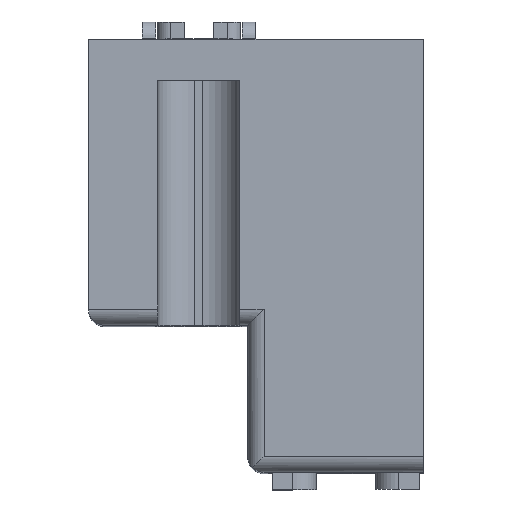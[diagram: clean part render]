
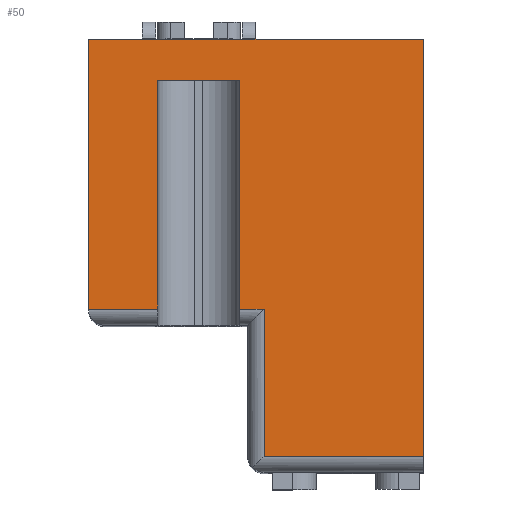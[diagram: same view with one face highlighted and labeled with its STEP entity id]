
A CAD part, top view. The second image highlights one B-rep face of the part: STEP entity #50.
In plain terms, the highlighted planar face has unit normal (0, 0, 1).
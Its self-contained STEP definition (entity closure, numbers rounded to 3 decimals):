
#50=ADVANCED_FACE('',(#478),#477,.F.);
#477=PLANE('',#3690);
#478=FACE_OUTER_BOUND('',#3691,.T.);
#3687=CARTESIAN_POINT('',(45.1,-61.1,62.2));
#3688=DIRECTION('',(0.,0.,-1.));
#3689=DIRECTION('',(-1.,0.,0.));
#3690=AXIS2_PLACEMENT_3D('',#3687,#3688,#3689);
#3691=EDGE_LOOP('',(#5406,#5407,#5408,#5409,#5410,#5411,#5412,#5413,#5414,#5415));
#5406=ORIENTED_EDGE('',*,*,#7146,.F.);
#5407=ORIENTED_EDGE('',*,*,#7154,.T.);
#5408=ORIENTED_EDGE('',*,*,#7155,.F.);
#5409=ORIENTED_EDGE('',*,*,#7156,.F.);
#5410=ORIENTED_EDGE('',*,*,#7157,.T.);
#5411=ORIENTED_EDGE('',*,*,#7031,.T.);
#5412=ORIENTED_EDGE('',*,*,#7158,.T.);
#5413=ORIENTED_EDGE('',*,*,#7159,.T.);
#5414=ORIENTED_EDGE('',*,*,#7033,.T.);
#5415=ORIENTED_EDGE('',*,*,#7160,.T.);
#7031=EDGE_CURVE('',#7950,#7964,#7971,.T.);
#7033=EDGE_CURVE('',#7985,#7978,#7986,.T.);
#7146=EDGE_CURVE('',#8762,#8769,#8770,.T.);
#7154=EDGE_CURVE('',#8762,#8824,#8825,.T.);
#7155=EDGE_CURVE('',#8831,#8824,#8832,.T.);
#7156=EDGE_CURVE('',#8838,#8831,#8839,.T.);
#7157=EDGE_CURVE('',#8838,#7950,#8845,.T.);
#7158=EDGE_CURVE('',#7964,#8851,#8852,.T.);
#7159=EDGE_CURVE('',#8851,#7985,#8858,.T.);
#7160=EDGE_CURVE('',#7978,#8769,#8864,.T.);
#7950=VERTEX_POINT('',#13804);
#7964=VERTEX_POINT('',#13813);
#7971=LINE('',#13817,#13818);
#7978=VERTEX_POINT('',#13821);
#7985=VERTEX_POINT('',#13825);
#7986=LINE('',#13826,#13827);
#8762=VERTEX_POINT('',#14278);
#8769=VERTEX_POINT('',#14282);
#8770=LINE('',#14283,#14284);
#8824=VERTEX_POINT('',#14317);
#8825=LINE('',#14318,#14319);
#8831=VERTEX_POINT('',#14321);
#8832=LINE('',#14322,#14323);
#8838=VERTEX_POINT('',#14325);
#8839=LINE('',#14326,#14327);
#8845=LINE('',#14329,#14330);
#8851=VERTEX_POINT('',#14332);
#8852=LINE('',#14333,#14334);
#8858=LINE('',#14336,#14337);
#8864=LINE('',#14339,#14340);
#13804=CARTESIAN_POINT('',(18.5,-38.,62.2));
#13813=CARTESIAN_POINT('',(21.5,-38.,62.2));
#13817=CARTESIAN_POINT('',(18.5,-38.,62.2));
#13818=VECTOR('',#13819,3.);
#13819=DIRECTION('',(1.,0.,0.));
#13821=CARTESIAN_POINT('',(41.,-5.,62.2));
#13825=CARTESIAN_POINT('',(41.,-56.,62.2));
#13826=CARTESIAN_POINT('',(41.,-56.,62.2));
#13827=VECTOR('',#13828,51.);
#13828=DIRECTION('',(0.,1.,0.));
#14278=CARTESIAN_POINT('',(0.,-38.,62.2));
#14282=CARTESIAN_POINT('',(0.,-5.,62.2));
#14283=CARTESIAN_POINT('',(0.,-38.,62.2));
#14284=VECTOR('',#14285,33.);
#14285=DIRECTION('',(0.,1.,0.));
#14317=CARTESIAN_POINT('',(8.5,-38.,62.2));
#14318=CARTESIAN_POINT('',(0.,-38.,62.2));
#14319=VECTOR('',#14320,8.5);
#14320=DIRECTION('',(1.,0.,0.));
#14321=CARTESIAN_POINT('',(8.5,-10.,62.2));
#14322=CARTESIAN_POINT('',(8.5,-10.,62.2));
#14323=VECTOR('',#14324,28.);
#14324=DIRECTION('',(0.,-1.,0.));
#14325=CARTESIAN_POINT('',(18.5,-10.,62.2));
#14326=CARTESIAN_POINT('',(18.5,-10.,62.2));
#14327=VECTOR('',#14328,10.);
#14328=DIRECTION('',(-1.,0.,0.));
#14329=CARTESIAN_POINT('',(18.5,-10.,62.2));
#14330=VECTOR('',#14331,28.);
#14331=DIRECTION('',(0.,-1.,0.));
#14332=CARTESIAN_POINT('',(21.5,-56.,62.2));
#14333=CARTESIAN_POINT('',(21.5,-38.,62.2));
#14334=VECTOR('',#14335,18.);
#14335=DIRECTION('',(0.,-1.,0.));
#14336=CARTESIAN_POINT('',(21.5,-56.,62.2));
#14337=VECTOR('',#14338,19.5);
#14338=DIRECTION('',(1.,0.,0.));
#14339=CARTESIAN_POINT('',(41.,-5.,62.2));
#14340=VECTOR('',#14341,41.);
#14341=DIRECTION('',(-1.,0.,0.));
